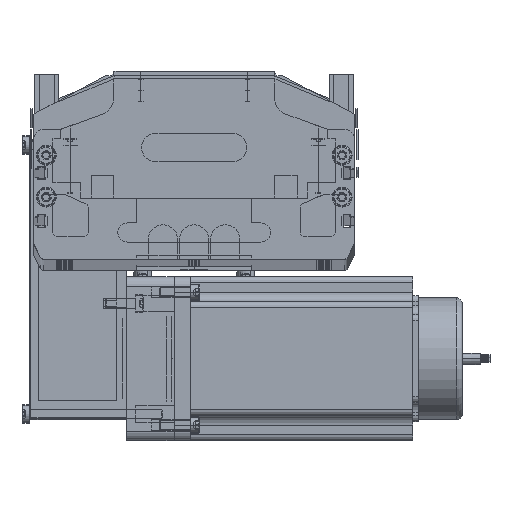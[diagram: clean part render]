
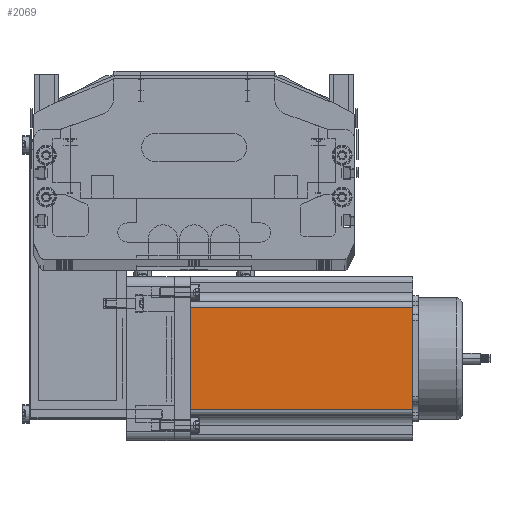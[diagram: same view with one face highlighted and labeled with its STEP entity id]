
A CAD part, top view. The second image highlights one B-rep face of the part: STEP entity #2069.
In plain terms, the highlighted planar face has unit normal (0, 0, 1) as drawn and (0, -1, 0) by its records, which use the part's own axes.
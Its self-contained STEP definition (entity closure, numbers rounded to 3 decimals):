
#1889 = ORIENTED_EDGE ( 'NONE', *, *, #2207, .T. ) ;
#1983 = VERTEX_POINT ( 'NONE', #74138 ) ;
#2069 = ADVANCED_FACE ( 'NONE', ( #74329 ), #74291, .F. ) ;
#2070 = ORIENTED_EDGE ( 'NONE', *, *, #2076, .F. ) ;
#2071 = VERTEX_POINT ( 'NONE', #74268 ) ;
#2072 = EDGE_CURVE ( 'NONE', #2162, #1983, #74294, .T. ) ;
#2075 = ORIENTED_EDGE ( 'NONE', *, *, #2072, .T. ) ;
#2076 = EDGE_CURVE ( 'NONE', #2071, #1983, #74263, .T. ) ;
#2078 = EDGE_CURVE ( 'NONE', #2071, #2161, #74247, .T. ) ;
#2080 = ORIENTED_EDGE ( 'NONE', *, *, #2078, .T. ) ;
#2161 = VERTEX_POINT ( 'NONE', #74667 ) ;
#2162 = VERTEX_POINT ( 'NONE', #74771 ) ;
#2163 = EDGE_LOOP ( 'NONE', ( #1889, #2075, #2070, #2080 ) ) ;
#2207 = EDGE_CURVE ( 'NONE', #2161, #2162, #74657, .T. ) ;
#74138 = CARTESIAN_POINT ( 'NONE',  ( 69.74, 0., 116.5 ) ) ;
#74244 = DIRECTION ( 'NONE',  ( 0., 0., -1. ) ) ;
#74245 = VECTOR ( 'NONE', #74244, 1000. ) ;
#74246 = CARTESIAN_POINT ( 'NONE',  ( 16.16, 0., 116.5 ) ) ;
#74247 = LINE ( 'NONE', #74246, #74245 ) ;
#74251 = DIRECTION ( 'NONE',  ( 1., 0., 0. ) ) ;
#74252 = VECTOR ( 'NONE', #74251, 1000. ) ;
#74253 = CARTESIAN_POINT ( 'NONE',  ( 0., 0., 116.5 ) ) ;
#74258 = DIRECTION ( 'NONE',  ( 0., 0., 1. ) ) ;
#74259 = VECTOR ( 'NONE', #74258, 1000. ) ;
#74263 = LINE ( 'NONE', #74253, #74252 ) ;
#74265 = DIRECTION ( 'NONE',  ( 0., 0., 1. ) ) ;
#74266 = DIRECTION ( 'NONE',  ( 0., 1., 0. ) ) ;
#74267 = CARTESIAN_POINT ( 'NONE',  ( 0., 0., 116.5 ) ) ;
#74268 = CARTESIAN_POINT ( 'NONE',  ( 16.16, 0., 116.5 ) ) ;
#74291 = PLANE ( 'NONE',  #74325 ) ;
#74293 = CARTESIAN_POINT ( 'NONE',  ( 69.74, 0., 116.5 ) ) ;
#74294 = LINE ( 'NONE', #74293, #74259 ) ;
#74325 = AXIS2_PLACEMENT_3D ( 'NONE', #74267, #74266, #74265 ) ;
#74329 = FACE_OUTER_BOUND ( 'NONE', #2163, .T. ) ;
#74654 = DIRECTION ( 'NONE',  ( 1., 0., 0. ) ) ;
#74655 = VECTOR ( 'NONE', #74654, 1000. ) ;
#74656 = CARTESIAN_POINT ( 'NONE',  ( 0., 0., 0. ) ) ;
#74657 = LINE ( 'NONE', #74656, #74655 ) ;
#74667 = CARTESIAN_POINT ( 'NONE',  ( 16.16, 0., 0. ) ) ;
#74771 = CARTESIAN_POINT ( 'NONE',  ( 69.74, 0., 0. ) ) ;
